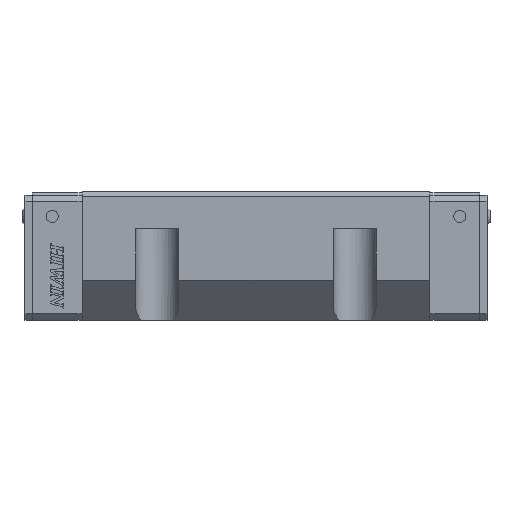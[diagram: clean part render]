
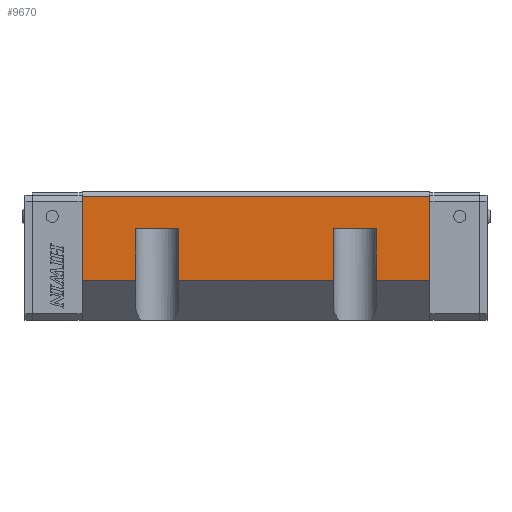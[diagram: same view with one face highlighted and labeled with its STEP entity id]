
A CAD part, top view. The second image highlights one B-rep face of the part: STEP entity #9670.
In plain terms, the highlighted planar face has unit normal (0, 0, 1) as drawn and (-1, 0, 0) by its records, which use the part's own axes.
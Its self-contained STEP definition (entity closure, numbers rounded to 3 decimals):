
#125=PLANE('',#10331);
#529=FACE_OUTER_BOUND('',#1058,.T.);
#1058=EDGE_LOOP('',(#6907,#6908,#6909,#6910,#6911,#6912,#6913,#6914,#6915,
#6916,#6917,#6918));
#1592=LINE('',#13957,#2756);
#1604=LINE('',#13987,#2768);
#1678=LINE('',#14170,#2842);
#1681=LINE('',#14179,#2845);
#1684=LINE('',#14187,#2848);
#1687=LINE('',#14193,#2851);
#1690=LINE('',#14202,#2854);
#1693=LINE('',#14208,#2857);
#1696=LINE('',#14216,#2860);
#1697=LINE('',#14217,#2861);
#1698=LINE('',#14218,#2862);
#1699=LINE('',#14219,#2863);
#2756=VECTOR('',#11152,34.);
#2768=VECTOR('',#11178,34.);
#2842=VECTOR('',#11356,17.5);
#2845=VECTOR('',#11363,17.5);
#2848=VECTOR('',#11370,21.);
#2851=VECTOR('',#11375,21.);
#2854=VECTOR('',#11386,21.);
#2857=VECTOR('',#11391,21.);
#2860=VECTOR('',#11402,62.5);
#2861=VECTOR('',#11403,21.65);
#2862=VECTOR('',#11404,140.8);
#2863=VECTOR('',#11405,21.65);
#4214=VERTEX_POINT('',#13954);
#4215=VERTEX_POINT('',#13956);
#4225=VERTEX_POINT('',#13984);
#4226=VERTEX_POINT('',#13986);
#4282=VERTEX_POINT('',#14168);
#4283=VERTEX_POINT('',#14169);
#4286=VERTEX_POINT('',#14177);
#4287=VERTEX_POINT('',#14178);
#4290=VERTEX_POINT('',#14186);
#4292=VERTEX_POINT('',#14192);
#4294=VERTEX_POINT('',#14201);
#4296=VERTEX_POINT('',#14207);
#5189=EDGE_CURVE('',#4215,#4214,#1592,.T.);
#5204=EDGE_CURVE('',#4226,#4225,#1604,.T.);
#5295=EDGE_CURVE('',#4282,#4283,#1678,.T.);
#5299=EDGE_CURVE('',#4286,#4287,#1681,.T.);
#5303=EDGE_CURVE('',#4283,#4290,#1684,.T.);
#5306=EDGE_CURVE('',#4292,#4282,#1687,.T.);
#5311=EDGE_CURVE('',#4287,#4294,#1690,.T.);
#5314=EDGE_CURVE('',#4296,#4286,#1693,.T.);
#5319=EDGE_CURVE('',#4290,#4296,#1696,.T.);
#5320=EDGE_CURVE('',#4294,#4215,#1697,.T.);
#5321=EDGE_CURVE('',#4226,#4214,#1698,.T.);
#5322=EDGE_CURVE('',#4225,#4292,#1699,.T.);
#6907=ORIENTED_EDGE('',*,*,#5306,.T.);
#6908=ORIENTED_EDGE('',*,*,#5295,.T.);
#6909=ORIENTED_EDGE('',*,*,#5303,.T.);
#6910=ORIENTED_EDGE('',*,*,#5319,.T.);
#6911=ORIENTED_EDGE('',*,*,#5314,.T.);
#6912=ORIENTED_EDGE('',*,*,#5299,.T.);
#6913=ORIENTED_EDGE('',*,*,#5311,.T.);
#6914=ORIENTED_EDGE('',*,*,#5320,.T.);
#6915=ORIENTED_EDGE('',*,*,#5189,.T.);
#6916=ORIENTED_EDGE('',*,*,#5321,.F.);
#6917=ORIENTED_EDGE('',*,*,#5204,.T.);
#6918=ORIENTED_EDGE('',*,*,#5322,.T.);
#9670=ADVANCED_FACE('',(#529),#125,.T.);
#10331=AXIS2_PLACEMENT_3D('',#14215,#11400,#11401);
#11152=DIRECTION('',(0.,1.,0.));
#11178=DIRECTION('',(0.,-1.,0.));
#11356=DIRECTION('',(0.,0.,1.));
#11363=DIRECTION('',(0.,0.,1.));
#11370=DIRECTION('',(0.,-1.,0.));
#11375=DIRECTION('',(0.,1.,0.));
#11386=DIRECTION('',(0.,-1.,0.));
#11391=DIRECTION('',(0.,1.,0.));
#11400=DIRECTION('center_axis',(-1.,0.,0.));
#11401=DIRECTION('ref_axis',(0.,0.,1.));
#11402=DIRECTION('',(0.,0.,1.));
#11403=DIRECTION('',(0.,0.,1.));
#11404=DIRECTION('',(0.,0.,1.));
#11405=DIRECTION('',(0.,0.,1.));
#13954=CARTESIAN_POINT('',(-60.,-12.,70.4));
#13956=CARTESIAN_POINT('',(-60.,-46.,70.4));
#13957=CARTESIAN_POINT('',(-60.,-46.,70.4));
#13984=CARTESIAN_POINT('',(-60.,-46.,-70.4));
#13986=CARTESIAN_POINT('',(-60.,-12.,-70.4));
#13987=CARTESIAN_POINT('',(-60.,-12.,-70.4));
#14168=CARTESIAN_POINT('',(-60.,-25.,-48.75));
#14169=CARTESIAN_POINT('',(-60.,-25.,-31.25));
#14170=CARTESIAN_POINT('',(-60.,-25.,-48.75));
#14177=CARTESIAN_POINT('',(-60.,-25.,31.25));
#14178=CARTESIAN_POINT('',(-60.,-25.,48.75));
#14179=CARTESIAN_POINT('',(-60.,-25.,31.25));
#14186=CARTESIAN_POINT('',(-60.,-46.,-31.25));
#14187=CARTESIAN_POINT('',(-60.,-25.,-31.25));
#14192=CARTESIAN_POINT('',(-60.,-46.,-48.75));
#14193=CARTESIAN_POINT('',(-60.,-46.,-48.75));
#14201=CARTESIAN_POINT('',(-60.,-46.,48.75));
#14202=CARTESIAN_POINT('',(-60.,-25.,48.75));
#14207=CARTESIAN_POINT('',(-60.,-46.,31.25));
#14208=CARTESIAN_POINT('',(-60.,-46.,31.25));
#14215=CARTESIAN_POINT('Origin',(-60.,-46.,-70.4));
#14216=CARTESIAN_POINT('',(-60.,-46.,-31.25));
#14217=CARTESIAN_POINT('',(-60.,-46.,48.75));
#14218=CARTESIAN_POINT('',(-60.,-12.,-70.4));
#14219=CARTESIAN_POINT('',(-60.,-46.,-70.4));
